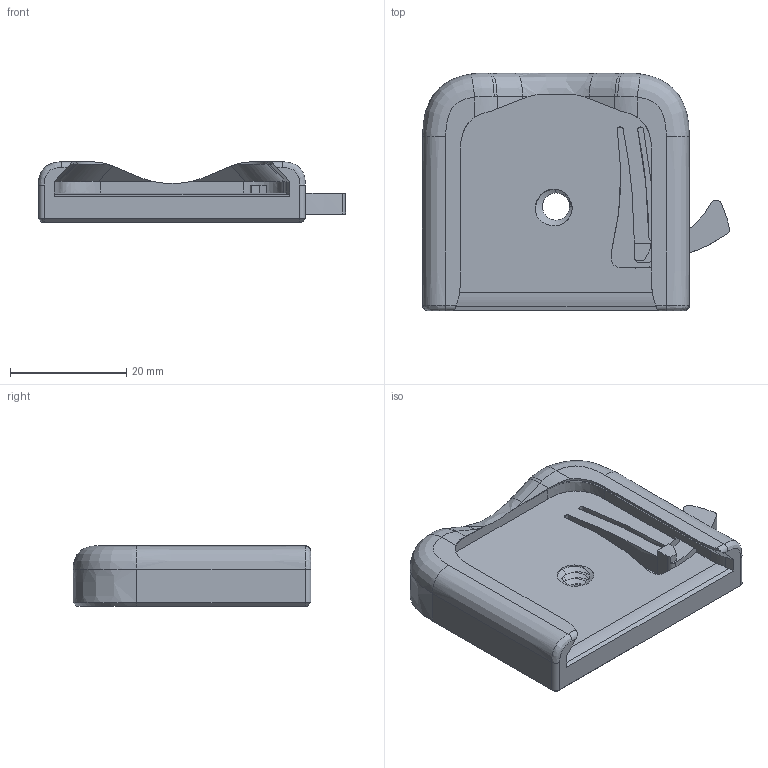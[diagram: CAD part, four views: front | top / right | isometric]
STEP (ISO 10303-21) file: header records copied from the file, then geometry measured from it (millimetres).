
FILE_DESCRIPTION(('CATIA V5 STEP Exchange'),'2;1');
FILE_NAME('C:\DATA_D\C5\3Dtisk\plate.stp','2024-12-12T15:59:08+00:00',('rorys3D'),('rorys3D'),'CATIA Version 5 Release 19 SP 9 (IN-10)','CATIA V5 STEP AP203','none');
FILE_SCHEMA(('CONFIG_CONTROL_DESIGN'));
Length unit declared in the file: millimetre
Products named in the file (1): Part2
Bounding box: 52.9 x 41 x 10.4 mm (x, y, z)
Volume: 10938.6 mm3; surface area: 7559.3 mm2
Topology: 1 solids, 3 shells, 159 faces, 449 edges, 295 vertices
Faces by surface type: plane 61, bspline 50, cylinder 33, extrusion 13, cone 2
Entity records: 8445 total; most frequent: CARTESIAN_POINT 4970, ORIENTED_EDGE 898, EDGE_CURVE 449, DIRECTION 402, VERTEX_POINT 295, B_SPLINE_CURVE_WITH_KNOTS 220, VECTOR 188, LINE 175
